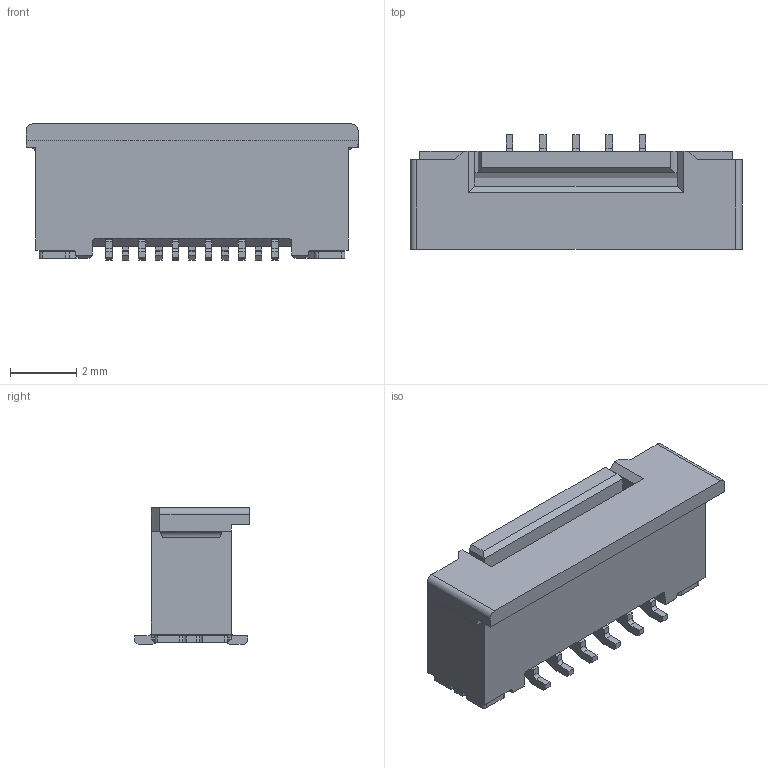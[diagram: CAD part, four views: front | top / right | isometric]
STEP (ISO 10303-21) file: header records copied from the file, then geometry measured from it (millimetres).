
FILE_DESCRIPTION (( 'STEP AP214' ), '1' );
FILE_NAME ('006214011010.STEP', '2021-12-21T04:58:21', ( '' ), ( '' ), 'SwSTEP 2.0', 'SolidWorks 2017', '' );
FILE_SCHEMA (( 'AUTOMOTIVE_DESIGN' ));
Length unit declared in the file: millimetre
Products named in the file (1): 006214011010
Bounding box: 10 x 3.45 x 4.1 mm (x, y, z)
Volume: 79.7 mm3; surface area: 211.7 mm2
Topology: 1 solids, 1 shells, 315 faces, 972 edges, 658 vertices
Faces by surface type: plane 250, cylinder 65
Entity records: 11057 total; most frequent: CARTESIAN_POINT 2565, ORIENTED_EDGE 1944, DIRECTION 1518, EDGE_CURVE 972, LINE 738, VECTOR 738, VERTEX_POINT 658, AXIS2_PLACEMENT_3D 390
